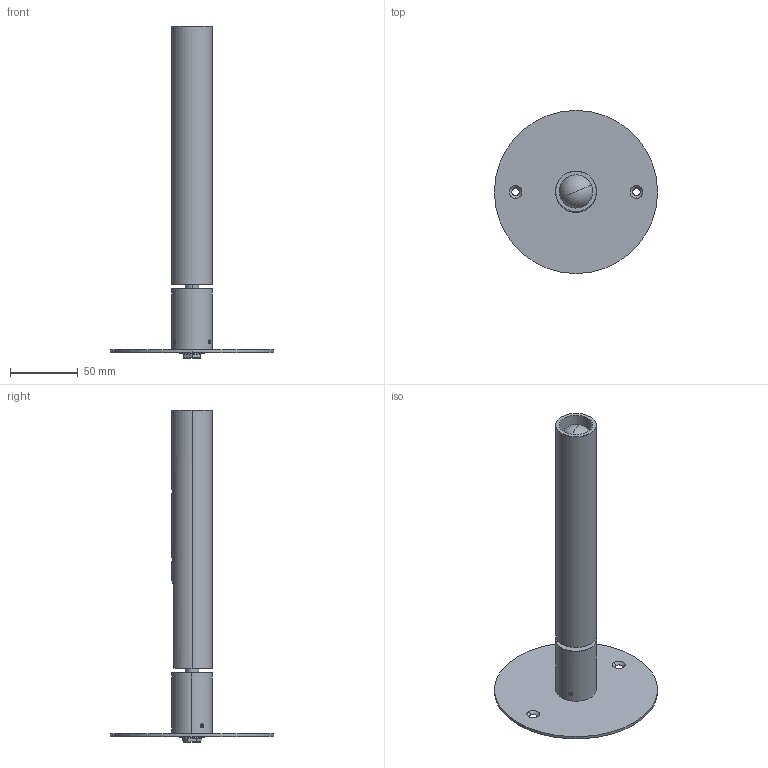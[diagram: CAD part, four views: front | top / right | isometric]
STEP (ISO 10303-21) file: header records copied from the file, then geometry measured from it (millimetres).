
FILE_DESCRIPTION (( 'STEP AP203' ), '1' );
FILE_NAME ('UFEGOX30XXXXLED-PER 3D.STEP', '2024-05-29T09:24:47', ( '' ), ( '' ), 'SwSTEP 2.0', 'SolidWorks 2024', '' );
FILE_SCHEMA (( 'CONFIG_CONTROL_DESIGN' ));
Length unit declared in the file: millimetre
Products named in the file (14): WSCM2A0060-0200-00_XX; WSMCROB10--19-0141_WSMCROB10--19-0141; WSCM2A0062-0200-01_XX; WSMCVIG-03A06-0200_MC-V001-SC-FE-08; UFEGOX30XXXXLED-PER 3D; WSMCDAA-10C30-0141_WSMCDAA-10C30-0141; WSCM2A0061-0200-01_XX; WS0T19663---------; SNODO-02_XX; WSMCGRE-03A04-0141_ISO 4027 - M3 x 4-N; SNODO-01_XX; WSCM2C0051-0100-01; WSR1PAXO-01-------; WSMCGRF-04A08-0141_MC-G001-PI-FE-08
Assembly tree (16 placements, depth 3):
  UFEGOX30XXXXLED-PER 3D
    WSCM2A0062-0200-01_XX
    WSMCVIG-03A06-0200_MC-V001-SC-FE-08  x2
    WSCM2A0060-0200-00_XX
    WS0T19663---------
      SNODO-01_XX
      SNODO-02_XX
    WSCM2A0061-0200-01_XX
    WSMCGRE-03A04-0141_ISO 4027 - M3 x 4-N  x3
    WSR1PAXO-01-------
    WSMCGRF-04A08-0141_MC-G001-PI-FE-08
    WSCM2C0051-0100-01
    WSMCROB10--19-0141_WSMCROB10--19-0141
    WSMCDAA-10C30-0141_WSMCDAA-10C30-0141
Bounding box: 120 x 120 x 244.2 mm (x, y, z)
Volume: 61025.8 mm3; surface area: 72600.6 mm2
Topology: 15 solids, 15 shells, 489 faces, 1225 edges, 731 vertices
Faces by surface type: cone 188, plane 161, cylinder 99, bspline 33, torus 8
Entity records: 13738 total; most frequent: CARTESIAN_POINT 3959, DIRECTION 1719, ORIENTED_EDGE 1706, EDGE_CURVE 853, AXIS2_PLACEMENT_3D 659, VERTEX_POINT 527, LINE 401, VECTOR 401
